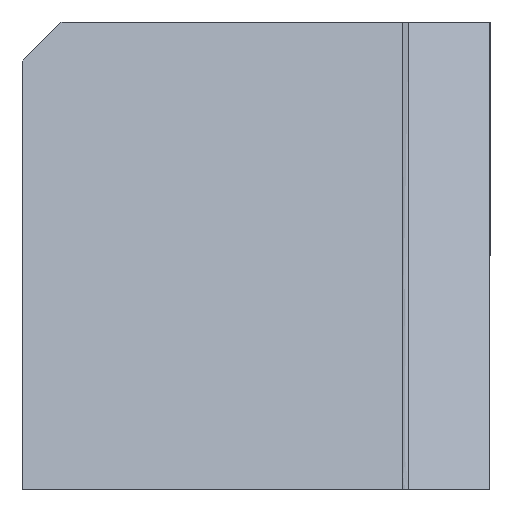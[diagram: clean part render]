
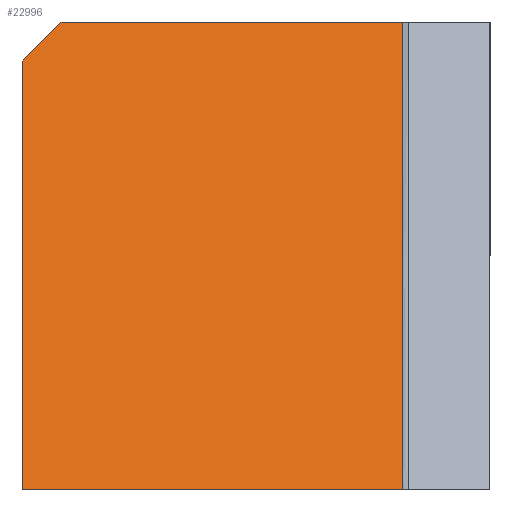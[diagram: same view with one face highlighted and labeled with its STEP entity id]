
A CAD part, left-side view. The second image highlights one B-rep face of the part: STEP entity #22996.
In plain terms, the highlighted planar face has unit normal (-0.943, 0, 0.334).
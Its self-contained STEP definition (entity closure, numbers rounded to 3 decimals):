
#3216=ORIENTED_EDGE('',*,*,#10240,.F.);
#3217=ORIENTED_EDGE('',*,*,#10241,.T.);
#3218=ORIENTED_EDGE('',*,*,#8320,.F.);
#3219=ORIENTED_EDGE('',*,*,#10242,.F.);
#3220=ORIENTED_EDGE('',*,*,#9337,.F.);
#8320=EDGE_CURVE('',#11832,#11833,#14147,.T.);
#9337=EDGE_CURVE('',#12848,#12850,#14833,.T.);
#10240=EDGE_CURVE('',#13752,#12848,#15436,.T.);
#10241=EDGE_CURVE('',#13752,#11833,#15437,.T.);
#10242=EDGE_CURVE('',#12850,#11832,#15438,.T.);
#11832=VERTEX_POINT('',#32181);
#11833=VERTEX_POINT('',#32182);
#12848=VERTEX_POINT('',#34738);
#12850=VERTEX_POINT('',#34741);
#13752=VERTEX_POINT('',#36547);
#14147=LINE('',#32180,#16897);
#14833=LINE('',#34740,#17583);
#15436=LINE('',#36546,#18186);
#15437=LINE('',#36548,#18187);
#15438=LINE('',#36549,#18188);
#16897=VECTOR('',#25804,1000.);
#17583=VECTOR('',#27092,1000.);
#18186=VECTOR('',#28297,1000.);
#18187=VECTOR('',#28298,1000.);
#18188=VECTOR('',#28299,1000.);
#19590=EDGE_LOOP('',(#3216,#3217,#3218,#3219,#3220));
#20888=FACE_BOUND('',#19590,.T.);
#22145=PLANE('',#24843);
#22996=ADVANCED_FACE('',(#20888),#22145,.T.);
#24843=AXIS2_PLACEMENT_3D('',#36545,#28295,#28296);
#25804=DIRECTION('',(0.,1.,0.));
#27092=DIRECTION('',(0.,-1.,0.));
#28295=DIRECTION('',(-0.942,0.,0.334));
#28296=DIRECTION('',(0.,1.,0.));
#28297=DIRECTION('',(0.243,-0.686,0.686));
#28298=DIRECTION('',(-0.334,0.,-0.942));
#28299=DIRECTION('',(-0.334,0.,-0.942));
#32180=CARTESIAN_POINT('',(-8.512,0.,-24.));
#32181=CARTESIAN_POINT('',(-8.512,-19.5,-24.));
#32182=CARTESIAN_POINT('',(-8.512,0.,-24.));
#34738=CARTESIAN_POINT('',(0.,-2.,0.));
#34740=CARTESIAN_POINT('',(0.,0.,0.));
#34741=CARTESIAN_POINT('',(0.,-19.5,0.));
#36545=CARTESIAN_POINT('',(0.,-19.5,0.));
#36546=CARTESIAN_POINT('',(1.342,-5.785,3.785));
#36547=CARTESIAN_POINT('',(-0.709,0.,-2.));
#36548=CARTESIAN_POINT('',(0.,0.,0.));
#36549=CARTESIAN_POINT('',(0.,-19.5,0.));
